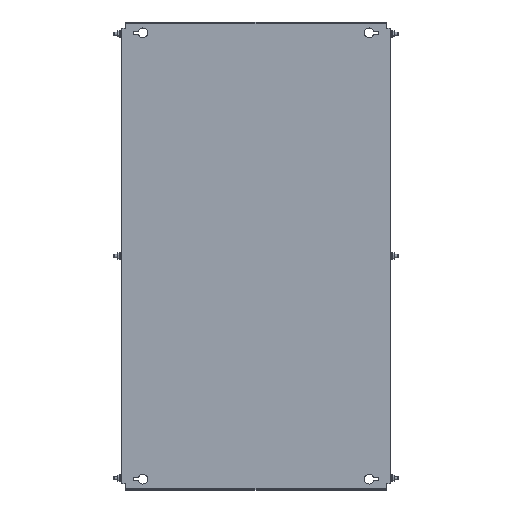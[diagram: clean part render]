
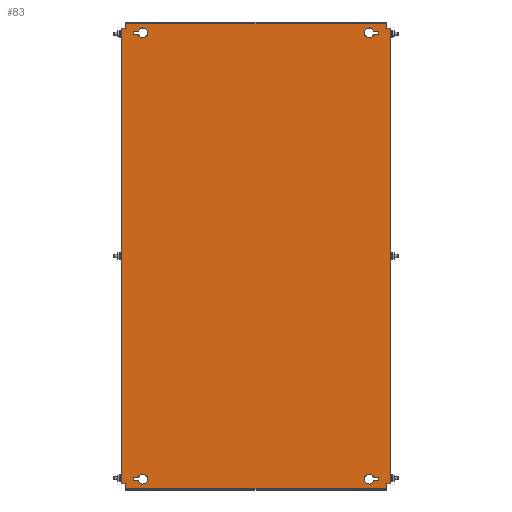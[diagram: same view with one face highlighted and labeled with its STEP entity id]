
A CAD part, top view. The second image highlights one B-rep face of the part: STEP entity #83.
In plain terms, the highlighted planar face has unit normal (0, 0, 1).
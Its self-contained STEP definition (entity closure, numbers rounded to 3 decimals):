
#83 = ADVANCED_FACE('',(#84,#119,#154,#316,#351),#386,.T.);
#84 = FACE_BOUND('',#85,.T.);
#85 = EDGE_LOOP('',(#86,#96,#104,#112));
#86 = ORIENTED_EDGE('',*,*,#87,.T.);
#87 = EDGE_CURVE('',#88,#90,#92,.T.);
#88 = VERTEX_POINT('',#89);
#89 = CARTESIAN_POINT('',(218.393,417.75,2.));
#90 = VERTEX_POINT('',#91);
#91 = CARTESIAN_POINT('',(228.,417.75,2.));
#92 = LINE('',#93,#94);
#93 = CARTESIAN_POINT('',(227.,417.75,2.));
#94 = VECTOR('',#95,1.);
#95 = DIRECTION('',(1.,0.,0.));
#96 = ORIENTED_EDGE('',*,*,#97,.T.);
#97 = EDGE_CURVE('',#90,#98,#100,.T.);
#98 = VERTEX_POINT('',#99);
#99 = CARTESIAN_POINT('',(228.,411.25,2.));
#100 = LINE('',#101,#102);
#101 = CARTESIAN_POINT('',(228.,417.75,2.));
#102 = VECTOR('',#103,1.);
#103 = DIRECTION('',(0.,-1.,0.));
#104 = ORIENTED_EDGE('',*,*,#105,.T.);
#105 = EDGE_CURVE('',#98,#106,#108,.T.);
#106 = VERTEX_POINT('',#107);
#107 = CARTESIAN_POINT('',(218.393,411.25,2.));
#108 = LINE('',#109,#110);
#109 = CARTESIAN_POINT('',(227.,411.25,2.));
#110 = VECTOR('',#111,1.);
#111 = DIRECTION('',(-1.,0.,0.));
#112 = ORIENTED_EDGE('',*,*,#113,.T.);
#113 = EDGE_CURVE('',#106,#88,#114,.T.);
#114 = CIRCLE('',#115,9.);
#115 = AXIS2_PLACEMENT_3D('',#116,#117,#118);
#116 = CARTESIAN_POINT('',(210.,414.5,2.));
#117 = DIRECTION('',(0.,0.,-1.));
#118 = DIRECTION('',(1.,0.,0.));
#119 = FACE_BOUND('',#120,.T.);
#120 = EDGE_LOOP('',(#121,#131,#139,#147));
#121 = ORIENTED_EDGE('',*,*,#122,.T.);
#122 = EDGE_CURVE('',#123,#125,#127,.T.);
#123 = VERTEX_POINT('',#124);
#124 = CARTESIAN_POINT('',(-218.393,-417.75,2.));
#125 = VERTEX_POINT('',#126);
#126 = CARTESIAN_POINT('',(-228.,-417.75,2.));
#127 = LINE('',#128,#129);
#128 = CARTESIAN_POINT('',(-227.,-417.75,2.));
#129 = VECTOR('',#130,1.);
#130 = DIRECTION('',(-1.,0.,0.));
#131 = ORIENTED_EDGE('',*,*,#132,.T.);
#132 = EDGE_CURVE('',#125,#133,#135,.T.);
#133 = VERTEX_POINT('',#134);
#134 = CARTESIAN_POINT('',(-228.,-411.25,2.));
#135 = LINE('',#136,#137);
#136 = CARTESIAN_POINT('',(-228.,-417.75,2.));
#137 = VECTOR('',#138,1.);
#138 = DIRECTION('',(0.,1.,0.));
#139 = ORIENTED_EDGE('',*,*,#140,.T.);
#140 = EDGE_CURVE('',#133,#141,#143,.T.);
#141 = VERTEX_POINT('',#142);
#142 = CARTESIAN_POINT('',(-218.393,-411.25,2.));
#143 = LINE('',#144,#145);
#144 = CARTESIAN_POINT('',(-227.,-411.25,2.));
#145 = VECTOR('',#146,1.);
#146 = DIRECTION('',(1.,-0.,-0.));
#147 = ORIENTED_EDGE('',*,*,#148,.T.);
#148 = EDGE_CURVE('',#141,#123,#149,.T.);
#149 = CIRCLE('',#150,9.);
#150 = AXIS2_PLACEMENT_3D('',#151,#152,#153);
#151 = CARTESIAN_POINT('',(-210.,-414.5,2.));
#152 = DIRECTION('',(0.,0.,-1.));
#153 = DIRECTION('',(-1.,0.,0.));
#154 = FACE_BOUND('',#155,.T.);
#155 = EDGE_LOOP('',(#156,#166,#174,#182,#190,#198,#206,#214,#222,#230,
    #238,#246,#254,#262,#270,#278,#286,#294,#302,#310));
#156 = ORIENTED_EDGE('',*,*,#157,.F.);
#157 = EDGE_CURVE('',#158,#160,#162,.T.);
#158 = VERTEX_POINT('',#159);
#159 = CARTESIAN_POINT('',(-247.4,422.5,2.));
#160 = VERTEX_POINT('',#161);
#161 = CARTESIAN_POINT('',(-242.,422.5,2.));
#162 = LINE('',#163,#164);
#163 = CARTESIAN_POINT('',(-248.,422.5,2.));
#164 = VECTOR('',#165,1.);
#165 = DIRECTION('',(1.,0.,-0.));
#166 = ORIENTED_EDGE('',*,*,#167,.T.);
#167 = EDGE_CURVE('',#158,#168,#170,.T.);
#168 = VERTEX_POINT('',#169);
#169 = CARTESIAN_POINT('',(-250.,422.5,2.));
#170 = LINE('',#171,#172);
#171 = CARTESIAN_POINT('',(-247.4,422.5,2.));
#172 = VECTOR('',#173,1.);
#173 = DIRECTION('',(-1.,0.,0.));
#174 = ORIENTED_EDGE('',*,*,#175,.F.);
#175 = EDGE_CURVE('',#176,#168,#178,.T.);
#176 = VERTEX_POINT('',#177);
#177 = CARTESIAN_POINT('',(-250.,-422.5,2.));
#178 = LINE('',#179,#180);
#179 = CARTESIAN_POINT('',(-250.,-432.5,2.));
#180 = VECTOR('',#181,1.);
#181 = DIRECTION('',(0.,1.,-0.));
#182 = ORIENTED_EDGE('',*,*,#183,.F.);
#183 = EDGE_CURVE('',#184,#176,#186,.T.);
#184 = VERTEX_POINT('',#185);
#185 = CARTESIAN_POINT('',(-247.4,-422.5,2.));
#186 = LINE('',#187,#188);
#187 = CARTESIAN_POINT('',(-242.,-422.5,2.));
#188 = VECTOR('',#189,1.);
#189 = DIRECTION('',(-1.,-0.,-0.));
#190 = ORIENTED_EDGE('',*,*,#191,.T.);
#191 = EDGE_CURVE('',#184,#192,#194,.T.);
#192 = VERTEX_POINT('',#193);
#193 = CARTESIAN_POINT('',(-242.,-422.5,2.));
#194 = LINE('',#195,#196);
#195 = CARTESIAN_POINT('',(-248.,-422.5,2.));
#196 = VECTOR('',#197,1.);
#197 = DIRECTION('',(1.,0.,-0.));
#198 = ORIENTED_EDGE('',*,*,#199,.T.);
#199 = EDGE_CURVE('',#192,#200,#202,.T.);
#200 = VERTEX_POINT('',#201);
#201 = CARTESIAN_POINT('',(-242.,-431.9,2.));
#202 = LINE('',#203,#204);
#203 = CARTESIAN_POINT('',(-242.,432.5,2.));
#204 = VECTOR('',#205,1.);
#205 = DIRECTION('',(0.,-1.,0.));
#206 = ORIENTED_EDGE('',*,*,#207,.T.);
#207 = EDGE_CURVE('',#200,#208,#210,.T.);
#208 = VERTEX_POINT('',#209);
#209 = CARTESIAN_POINT('',(-242.,-432.5,2.));
#210 = LINE('',#211,#212);
#211 = CARTESIAN_POINT('',(-242.,-431.9,2.));
#212 = VECTOR('',#213,1.);
#213 = DIRECTION('',(-0.,-1.,-0.));
#214 = ORIENTED_EDGE('',*,*,#215,.T.);
#215 = EDGE_CURVE('',#208,#216,#218,.T.);
#216 = VERTEX_POINT('',#217);
#217 = CARTESIAN_POINT('',(242.,-432.5,2.));
#218 = LINE('',#219,#220);
#219 = CARTESIAN_POINT('',(242.,-432.5,2.));
#220 = VECTOR('',#221,1.);
#221 = DIRECTION('',(1.,0.,0.));
#222 = ORIENTED_EDGE('',*,*,#223,.F.);
#223 = EDGE_CURVE('',#224,#216,#226,.T.);
#224 = VERTEX_POINT('',#225);
#225 = CARTESIAN_POINT('',(242.,-431.9,2.));
#226 = LINE('',#227,#228);
#227 = CARTESIAN_POINT('',(242.,-432.5,2.));
#228 = VECTOR('',#229,1.);
#229 = DIRECTION('',(0.,-1.,0.));
#230 = ORIENTED_EDGE('',*,*,#231,.T.);
#231 = EDGE_CURVE('',#224,#232,#234,.T.);
#232 = VERTEX_POINT('',#233);
#233 = CARTESIAN_POINT('',(242.,-422.5,2.));
#234 = LINE('',#235,#236);
#235 = CARTESIAN_POINT('',(242.,432.5,2.));
#236 = VECTOR('',#237,1.);
#237 = DIRECTION('',(0.,1.,-0.));
#238 = ORIENTED_EDGE('',*,*,#239,.F.);
#239 = EDGE_CURVE('',#240,#232,#242,.T.);
#240 = VERTEX_POINT('',#241);
#241 = CARTESIAN_POINT('',(247.4,-422.5,2.));
#242 = LINE('',#243,#244);
#243 = CARTESIAN_POINT('',(248.,-422.5,2.));
#244 = VECTOR('',#245,1.);
#245 = DIRECTION('',(-1.,0.,-0.));
#246 = ORIENTED_EDGE('',*,*,#247,.T.);
#247 = EDGE_CURVE('',#240,#248,#250,.T.);
#248 = VERTEX_POINT('',#249);
#249 = CARTESIAN_POINT('',(250.,-422.5,2.));
#250 = LINE('',#251,#252);
#251 = CARTESIAN_POINT('',(247.4,-422.5,2.));
#252 = VECTOR('',#253,1.);
#253 = DIRECTION('',(1.,-0.,0.));
#254 = ORIENTED_EDGE('',*,*,#255,.F.);
#255 = EDGE_CURVE('',#256,#248,#258,.T.);
#256 = VERTEX_POINT('',#257);
#257 = CARTESIAN_POINT('',(250.,422.5,2.));
#258 = LINE('',#259,#260);
#259 = CARTESIAN_POINT('',(250.,-432.5,2.));
#260 = VECTOR('',#261,1.);
#261 = DIRECTION('',(0.,-1.,-0.));
#262 = ORIENTED_EDGE('',*,*,#263,.F.);
#263 = EDGE_CURVE('',#264,#256,#266,.T.);
#264 = VERTEX_POINT('',#265);
#265 = CARTESIAN_POINT('',(247.4,422.5,2.));
#266 = LINE('',#267,#268);
#267 = CARTESIAN_POINT('',(-242.,422.5,2.));
#268 = VECTOR('',#269,1.);
#269 = DIRECTION('',(1.,-0.,0.));
#270 = ORIENTED_EDGE('',*,*,#271,.T.);
#271 = EDGE_CURVE('',#264,#272,#274,.T.);
#272 = VERTEX_POINT('',#273);
#273 = CARTESIAN_POINT('',(242.,422.5,2.));
#274 = LINE('',#275,#276);
#275 = CARTESIAN_POINT('',(248.,422.5,2.));
#276 = VECTOR('',#277,1.);
#277 = DIRECTION('',(-1.,0.,-0.));
#278 = ORIENTED_EDGE('',*,*,#279,.T.);
#279 = EDGE_CURVE('',#272,#280,#282,.T.);
#280 = VERTEX_POINT('',#281);
#281 = CARTESIAN_POINT('',(242.,431.9,2.));
#282 = LINE('',#283,#284);
#283 = CARTESIAN_POINT('',(242.,432.5,2.));
#284 = VECTOR('',#285,1.);
#285 = DIRECTION('',(0.,1.,-0.));
#286 = ORIENTED_EDGE('',*,*,#287,.T.);
#287 = EDGE_CURVE('',#280,#288,#290,.T.);
#288 = VERTEX_POINT('',#289);
#289 = CARTESIAN_POINT('',(242.,432.5,2.));
#290 = LINE('',#291,#292);
#291 = CARTESIAN_POINT('',(242.,431.9,2.));
#292 = VECTOR('',#293,1.);
#293 = DIRECTION('',(-0.,1.,-0.));
#294 = ORIENTED_EDGE('',*,*,#295,.T.);
#295 = EDGE_CURVE('',#288,#296,#298,.T.);
#296 = VERTEX_POINT('',#297);
#297 = CARTESIAN_POINT('',(-242.,432.5,2.));
#298 = LINE('',#299,#300);
#299 = CARTESIAN_POINT('',(-242.,432.5,2.));
#300 = VECTOR('',#301,1.);
#301 = DIRECTION('',(-1.,0.,0.));
#302 = ORIENTED_EDGE('',*,*,#303,.F.);
#303 = EDGE_CURVE('',#304,#296,#306,.T.);
#304 = VERTEX_POINT('',#305);
#305 = CARTESIAN_POINT('',(-242.,431.9,2.));
#306 = LINE('',#307,#308);
#307 = CARTESIAN_POINT('',(-242.,-432.5,2.));
#308 = VECTOR('',#309,1.);
#309 = DIRECTION('',(0.,1.,-0.));
#310 = ORIENTED_EDGE('',*,*,#311,.T.);
#311 = EDGE_CURVE('',#304,#160,#312,.T.);
#312 = LINE('',#313,#314);
#313 = CARTESIAN_POINT('',(-242.,432.5,2.));
#314 = VECTOR('',#315,1.);
#315 = DIRECTION('',(0.,-1.,0.));
#316 = FACE_BOUND('',#317,.T.);
#317 = EDGE_LOOP('',(#318,#328,#336,#344));
#318 = ORIENTED_EDGE('',*,*,#319,.F.);
#319 = EDGE_CURVE('',#320,#322,#324,.T.);
#320 = VERTEX_POINT('',#321);
#321 = CARTESIAN_POINT('',(228.,-411.25,2.));
#322 = VERTEX_POINT('',#323);
#323 = CARTESIAN_POINT('',(218.393,-411.25,2.));
#324 = LINE('',#325,#326);
#325 = CARTESIAN_POINT('',(218.393,-411.25,2.));
#326 = VECTOR('',#327,1.);
#327 = DIRECTION('',(-1.,0.,0.));
#328 = ORIENTED_EDGE('',*,*,#329,.F.);
#329 = EDGE_CURVE('',#330,#320,#332,.T.);
#330 = VERTEX_POINT('',#331);
#331 = CARTESIAN_POINT('',(228.,-417.75,2.));
#332 = LINE('',#333,#334);
#333 = CARTESIAN_POINT('',(228.,-411.25,2.));
#334 = VECTOR('',#335,1.);
#335 = DIRECTION('',(0.,1.,0.));
#336 = ORIENTED_EDGE('',*,*,#337,.F.);
#337 = EDGE_CURVE('',#338,#330,#340,.T.);
#338 = VERTEX_POINT('',#339);
#339 = CARTESIAN_POINT('',(218.393,-417.75,2.));
#340 = LINE('',#341,#342);
#341 = CARTESIAN_POINT('',(227.,-417.75,2.));
#342 = VECTOR('',#343,1.);
#343 = DIRECTION('',(1.,0.,0.));
#344 = ORIENTED_EDGE('',*,*,#345,.F.);
#345 = EDGE_CURVE('',#322,#338,#346,.T.);
#346 = CIRCLE('',#347,9.);
#347 = AXIS2_PLACEMENT_3D('',#348,#349,#350);
#348 = CARTESIAN_POINT('',(210.,-414.5,2.));
#349 = DIRECTION('',(0.,-0.,1.));
#350 = DIRECTION('',(1.,0.,0.));
#351 = FACE_BOUND('',#352,.T.);
#352 = EDGE_LOOP('',(#353,#363,#371,#379));
#353 = ORIENTED_EDGE('',*,*,#354,.F.);
#354 = EDGE_CURVE('',#355,#357,#359,.T.);
#355 = VERTEX_POINT('',#356);
#356 = CARTESIAN_POINT('',(-228.,411.25,2.));
#357 = VERTEX_POINT('',#358);
#358 = CARTESIAN_POINT('',(-218.393,411.25,2.));
#359 = LINE('',#360,#361);
#360 = CARTESIAN_POINT('',(-218.393,411.25,2.));
#361 = VECTOR('',#362,1.);
#362 = DIRECTION('',(1.,0.,0.));
#363 = ORIENTED_EDGE('',*,*,#364,.F.);
#364 = EDGE_CURVE('',#365,#355,#367,.T.);
#365 = VERTEX_POINT('',#366);
#366 = CARTESIAN_POINT('',(-228.,417.75,2.));
#367 = LINE('',#368,#369);
#368 = CARTESIAN_POINT('',(-228.,411.25,2.));
#369 = VECTOR('',#370,1.);
#370 = DIRECTION('',(0.,-1.,0.));
#371 = ORIENTED_EDGE('',*,*,#372,.F.);
#372 = EDGE_CURVE('',#373,#365,#375,.T.);
#373 = VERTEX_POINT('',#374);
#374 = CARTESIAN_POINT('',(-218.393,417.75,2.));
#375 = LINE('',#376,#377);
#376 = CARTESIAN_POINT('',(-227.,417.75,2.));
#377 = VECTOR('',#378,1.);
#378 = DIRECTION('',(-1.,0.,0.));
#379 = ORIENTED_EDGE('',*,*,#380,.F.);
#380 = EDGE_CURVE('',#357,#373,#381,.T.);
#381 = CIRCLE('',#382,9.);
#382 = AXIS2_PLACEMENT_3D('',#383,#384,#385);
#383 = CARTESIAN_POINT('',(-210.,414.5,2.));
#384 = DIRECTION('',(0.,-0.,1.));
#385 = DIRECTION('',(-1.,0.,0.));
#386 = PLANE('',#387);
#387 = AXIS2_PLACEMENT_3D('',#388,#389,#390);
#388 = CARTESIAN_POINT('',(-242.,-432.5,2.));
#389 = DIRECTION('',(-0.,0.,1.));
#390 = DIRECTION('',(1.,0.,0.));
